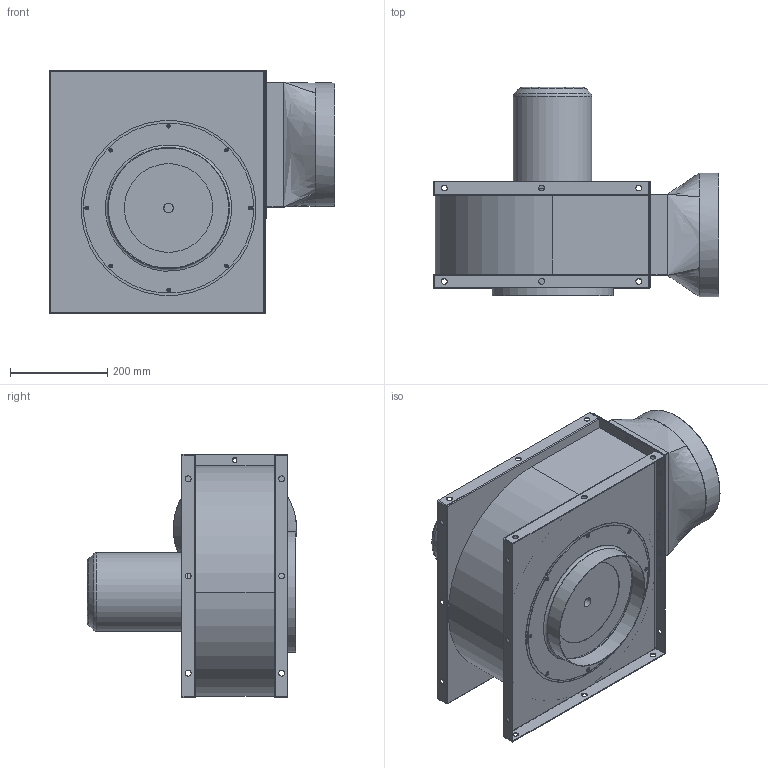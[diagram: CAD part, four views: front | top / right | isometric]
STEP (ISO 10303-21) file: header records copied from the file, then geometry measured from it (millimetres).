
FILE_DESCRIPTION(/* description */ ('Unknown'),/* implementation_level */ '2;1');
FILE_NAME(/* name */ 'CYST300A2P3-EG 型錄',/* time_stamp */ '2026-06-06T11:17:54+08:00',/* author */ ('Unknown'),/* organization */ ('Unknown'),/* preprocessor_version */ 'ST-DEVELOPER v20',/* originating_system */ 'Solid Edge',/* authorisation */ 'Unknown');
FILE_SCHEMA (('AUTOMOTIVE_DESIGN {1 0 10303 214 3 1 1}'));
Length unit declared in the file: millimetre
Products named in the file (7): CYST300A2P3-EG; CYST300-01; CYST300-08; CYST300-04-10; CYST300-06V; CY270-05; JM1802PV-EG & JM1802P3V-EG 尺寸
Assembly tree (6 placements, depth 2):
  CYST300A2P3-EG
    CYST300-01
    CYST300-08
    CYST300-04-10
    CYST300-06V
    CY270-05
    JM1802PV-EG & JM1802P3V-EG 尺寸
Bounding box: 586.5 x 430.5 x 500 mm (x, y, z)
Volume: 34273573.1 mm3; surface area: 1961550.3 mm2
Topology: 6 solids, 6 shells, 274 faces, 766 edges, 488 vertices
Faces by surface type: cylinder 146, plane 107, sphere 8, bspline 8, torus 4, cone 1
Full cylindrical faces by diameter (mm): 3 x8, 5 x1, 6.4 x4, 6.5 x20, 7 x8, 8.2 x4, 8.5 x12, 12 x24, 20 x1, 55 x1, 143.5 x1, 162 x1, 182 x1, 247.6 x1, 250 x1, 251 x1, 254 x1, 350 x2, 360 x1
Entity records: 9497 total; most frequent: CARTESIAN_POINT 2248, DIRECTION 1457, ORIENTED_EDGE 1284, EDGE_CURVE 642, AXIS2_PLACEMENT_3D 570, EDGE_LOOP 569, FACE_BOUND 569, VERTEX_POINT 471
